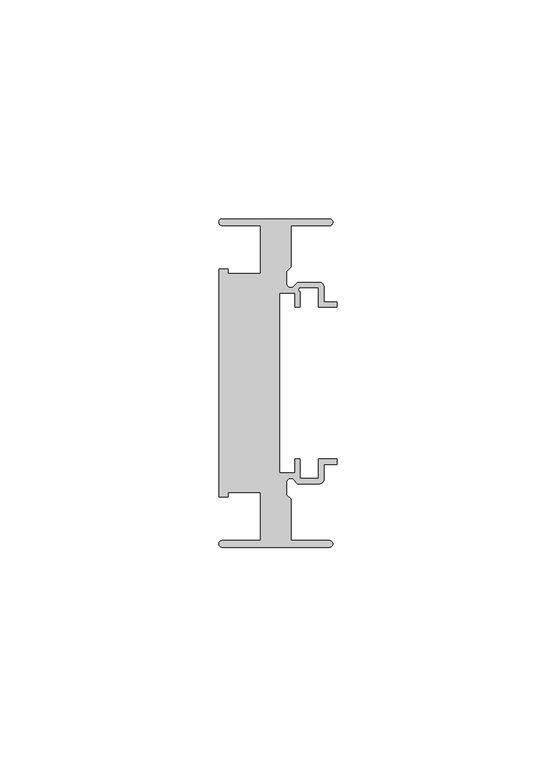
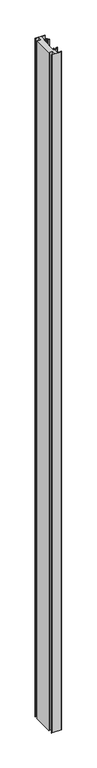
"""IFC4 building model written with IfcOpenShell, lengths in millimetres: member geometry, Прямоугольный импост : 7-AMG-2-Профиль 26Х75 Верх П."""

from ifc_helpers import new_model, si_unit, point, frame, frame_2d, origin, place, context, project, spatial, polyline, circle_curve, trimmed, segment, composite_curve, outline, extrude, source, transform, mapped, element, save


def member_5714085a(model_context):
    return source(origin(), model_context, "Body", "SweptSolid", [
        extrude(outline(composite_curve([segment(polyline([(-1.7, -37.5), (-26.25, -37.5)]), True, "CONTINUOUS"), segment(trimmed(circle_curve(frame_2d((-26.25, -36.75)), 0.75), [point((-26.25, -37.5))], [point((-26.25, -36.0))], False, "CARTESIAN"), True, "CONTINUOUS"), segment(polyline([(-26.25, -36.0), (-17.5, -36.0), (-17.5, -25.0), (-24.9359877, -25.0), (-24.9359877, -26.0), (-27.0, -26.0), (-27.0, 26.0), (-24.9359877, 26.0), (-24.9359877, 25.0), (-17.5, 25.0), (-17.5, 36.0), (-26.25, 36.0)]), True, "CONTINUOUS"), segment(trimmed(circle_curve(frame_2d((-26.25, 36.75)), 0.75), [point((-26.25, 36.0))], [point((-26.25, 37.5))], False, "CARTESIAN"), True, "CONTINUOUS"), segment(polyline([(-26.25, 37.5), (-1.7, 37.5)]), True, "CONTINUOUS"), segment(trimmed(circle_curve(frame_2d((-1.7, 36.75)), 0.75), [point((-1.7, 37.5))], [point((-1.7, 36.0))], False, "CARTESIAN"), True, "CONTINUOUS"), segment(polyline([(-1.7, 36.0), (-10.5, 36.0), (-10.5, 26.5029437), (-11.5, 25.5029437), (-11.5, 22.6727922)]), True, "CONTINUOUS"), segment(trimmed(circle_curve(frame_2d((-10.6, 22.6727922)), 0.9), [point((-11.5, 22.6727922))], [point((-9.9636039, 22.0363961))], True, "CARTESIAN"), True, "CONTINUOUS"), segment(polyline([(-9.9636039, 22.0363961), (-9.0, 23.0), (-4.0, 23.0)]), True, "CONTINUOUS"), segment(trimmed(circle_curve(frame_2d((-4.0, 22.0)), 1.0), [point((-4.0, 23.0))], [point((-3.0, 22.0))], False, "CARTESIAN"), True, "CONTINUOUS"), segment(polyline([(-3.0, 22.0), (-3.0, 18.55), (0.0, 18.55), (0.0, 17.35), (-4.2, 17.35), (-4.2, 21.8), (-8.5029437, 21.8)]), True, "CONTINUOUS"), segment(trimmed(circle_curve(frame_2d((-8.3343131, 21.3314262)), 0.4979937), [point((-8.5029437, 21.8))], [point((-8.45, 20.8470563))], True, "CARTESIAN"), True, "CONTINUOUS"), segment(polyline([(-8.45, 20.8470563), (-8.45, 17.35), (-9.65, 17.35), (-9.65, 20.55), (-13.15, 20.55), (-13.15, -20.55), (-9.65, -20.55), (-9.65, -17.35), (-8.45, -17.35), (-8.45, -21.8), (-4.2, -21.8), (-4.2, -17.35), (0.0, -17.35), (0.0, -18.55), (-3.0, -18.55), (-3.0, -22.0)]), True, "CONTINUOUS"), segment(trimmed(circle_curve(frame_2d((-4.0, -22.0)), 1.0), [point((-3.0, -22.0))], [point((-4.0, -23.0))], False, "CARTESIAN"), True, "CONTINUOUS"), segment(polyline([(-4.0, -23.0), (-9.0, -23.0), (-9.9636039, -22.0363961)]), True, "CONTINUOUS"), segment(trimmed(circle_curve(frame_2d((-10.6, -22.6727922)), 0.9), [point((-9.9636039, -22.0363961))], [point((-11.5, -22.6727922))], True, "CARTESIAN"), True, "CONTINUOUS"), segment(polyline([(-11.5, -22.6727922), (-11.5, -25.5029437), (-10.5, -26.5029437), (-10.5, -36.0), (-1.7, -36.0)]), True, "CONTINUOUS"), segment(trimmed(circle_curve(frame_2d((-1.7, -36.75)), 0.75), [point((-1.7, -36.0))], [point((-1.7, -37.5))], False, "CARTESIAN"), True, "CONTINUOUS")], self_intersect=False)), frame((0.0, 0.0, -1845.8251447), z_axis=(0.0, 0.0, 1.0), x_axis=(1.0, 0.0, 0.0)), (0.0, 0.0, 1.0), 1845.8251447),
    ])


if __name__ == "__main__":
    model = new_model("IFC4")
    model_context = context("Model", 3, world=origin())
    ifc_project = project(units=[si_unit("LENGTHUNIT", "METRE", prefix="MILLI")], contexts=[model_context])
    site = spatial("IfcSite", under=ifc_project)
    building = spatial("IfcBuilding", under=site)
    placement = place(None, origin())
    member_shape = member_5714085a(model_context)
    element("IfcMember", 1, ObjectType="Прямоугольный импост : 7-AMG-2-Профиль 26Х75 Верх П", at=placement, inside=building, context=model_context, shape_type="MappedRepresentation", body=[
        mapped(member_shape, transform((0.0, 0.0, 0.0), x_axis=(1.0, 0.0, 0.0), y_axis=(0.0, 1.0, 0.0), z_axis=(0.0, 0.0, 1.0))),
    ])
    save(model, "model.ifc")
